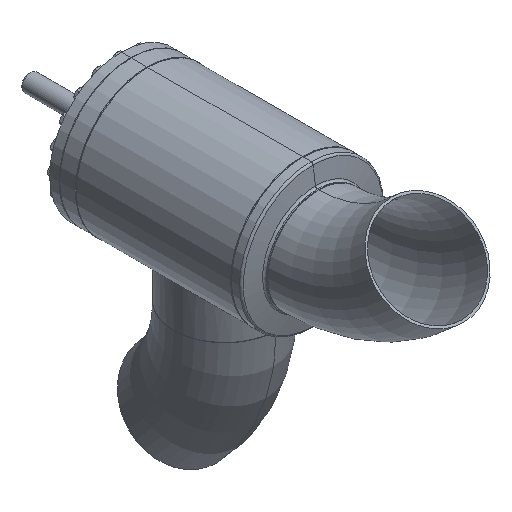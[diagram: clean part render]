
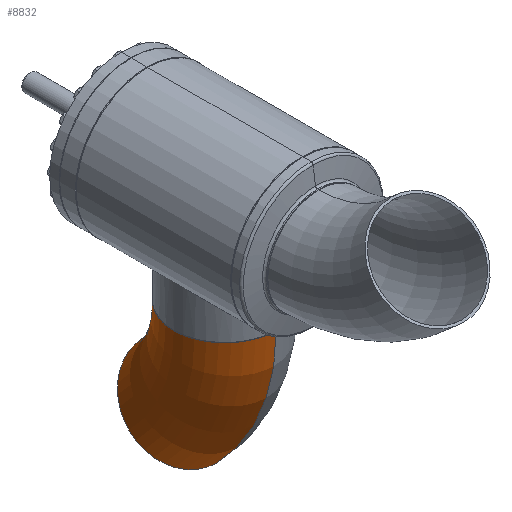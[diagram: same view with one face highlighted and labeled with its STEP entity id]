
A CAD part, isometric view. The second image highlights one B-rep face of the part: STEP entity #8832.
In plain terms, the highlighted toroidal (fillet/blend) face has major radius 762 mm and minor radius 254 mm.
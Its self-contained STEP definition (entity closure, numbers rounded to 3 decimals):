
#1 = VERTEX_POINT ( 'NONE', #9413 ) ;
#222 = EDGE_CURVE ( 'NONE', #1114, #1, #9710, .T. ) ;
#517 = CARTESIAN_POINT ( 'NONE',  ( 0., 254., 0. ) ) ;
#592 = ORIENTED_EDGE ( 'NONE', *, *, #222, .T. ) ;
#645 = CIRCLE ( 'NONE', #646, 1016. ) ;
#646 = AXIS2_PLACEMENT_3D ( 'NONE', #647, #648, #649 ) ;
#647 = CARTESIAN_POINT ( 'NONE',  ( 0., -762., 0. ) ) ;
#648 = DIRECTION ( 'NONE',  ( 0., 0., 1. ) ) ;
#649 = DIRECTION ( 'NONE',  ( 1., 0., 0. ) ) ;
#1114 = VERTEX_POINT ( 'NONE', #517 ) ;
#1123 = CARTESIAN_POINT ( 'NONE',  ( 359.21, -402.79, 0. ) ) ;
#1327 = EDGE_CURVE ( 'NONE', #2431, #1114, #645, .T. ) ;
#1476 = CARTESIAN_POINT ( 'NONE',  ( 718.42, -43.58, 0. ) ) ;
#1620 = CIRCLE ( 'NONE', #1621, 254. ) ;
#1621 = AXIS2_PLACEMENT_3D ( 'NONE', #1622, #1623, #1624 ) ;
#1622 = CARTESIAN_POINT ( 'NONE',  ( 538.815, -223.185, 0. ) ) ;
#1623 = DIRECTION ( 'NONE',  ( 0.707, -0.707, 0. ) ) ;
#1624 = DIRECTION ( 'NONE',  ( 0., 0., -1. ) ) ;
#1689 = ORIENTED_EDGE ( 'NONE', *, *, #1327, .T. ) ;
#2207 = VERTEX_POINT ( 'NONE', #1123 ) ;
#2379 = FACE_OUTER_BOUND ( 'NONE', #8861, .T. ) ;
#2380 = TOROIDAL_SURFACE ( 'NONE', #2381, 762., 254. ) ;
#2381 = AXIS2_PLACEMENT_3D ( 'NONE', #2382, #2383, #2384 ) ;
#2382 = CARTESIAN_POINT ( 'NONE',  ( 0., -762., 0. ) ) ;
#2383 = DIRECTION ( 'NONE',  ( 0., 0., 1. ) ) ;
#2384 = DIRECTION ( 'NONE',  ( 1., 0., 0. ) ) ;
#2431 = VERTEX_POINT ( 'NONE', #1476 ) ;
#2522 = CIRCLE ( 'NONE', #2523, 508. ) ;
#2523 = AXIS2_PLACEMENT_3D ( 'NONE', #2524, #2525, #2526 ) ;
#2524 = CARTESIAN_POINT ( 'NONE',  ( 0., -762., 0. ) ) ;
#2525 = DIRECTION ( 'NONE',  ( 0., 0., 1. ) ) ;
#2526 = DIRECTION ( 'NONE',  ( 1., 0., 0. ) ) ;
#8717 = EDGE_CURVE ( 'NONE', #2431, #2207, #1620, .T. ) ;
#8767 = ORIENTED_EDGE ( 'NONE', *, *, #8717, .F. ) ;
#8832 = ADVANCED_FACE ( 'NONE', ( #2379 ), #2380, .T. ) ;
#8861 = EDGE_LOOP ( 'NONE', ( #8767, #1689, #592, #9516 ) ) ;
#9377 = EDGE_CURVE ( 'NONE', #2207, #1, #2522, .T. ) ;
#9413 = CARTESIAN_POINT ( 'NONE',  ( 0., -254., 0. ) ) ;
#9516 = ORIENTED_EDGE ( 'NONE', *, *, #9377, .F. ) ;
#9710 = CIRCLE ( 'NONE', #9713, 254. ) ;
#9713 = AXIS2_PLACEMENT_3D ( 'NONE', #9714, #9715, #9716 ) ;
#9714 = CARTESIAN_POINT ( 'NONE',  ( 0., 0., 0. ) ) ;
#9715 = DIRECTION ( 'NONE',  ( 1., 0., 0. ) ) ;
#9716 = DIRECTION ( 'NONE',  ( 0., 0., -1. ) ) ;
